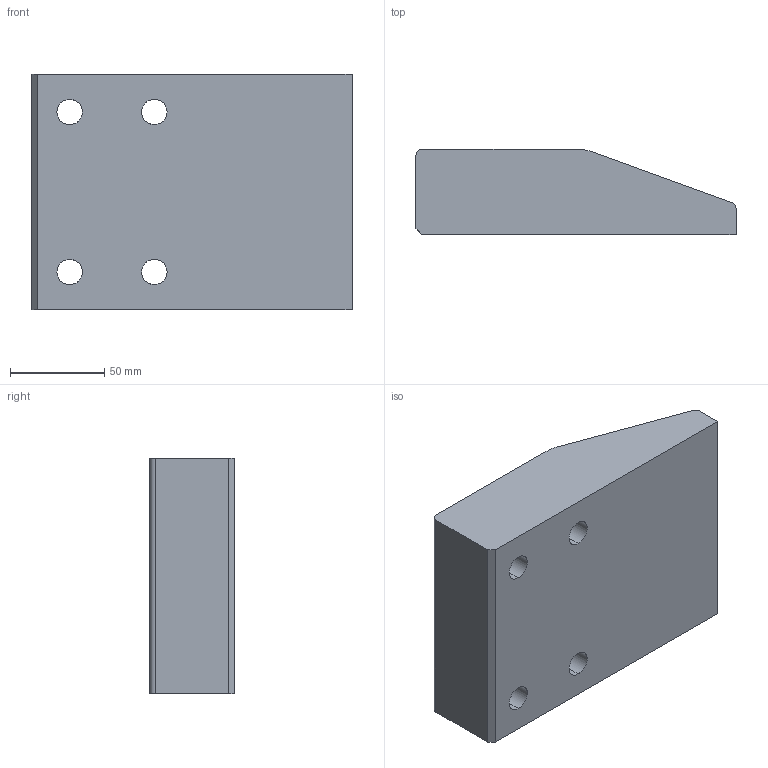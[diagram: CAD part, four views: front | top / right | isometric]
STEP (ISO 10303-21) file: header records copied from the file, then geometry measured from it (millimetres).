
FILE_DESCRIPTION(('CATIA V5 STEP Exchange'),'2;1');
FILE_NAME('C:\Users\Raffaele\Desktop\3D X SITO CF\A935\GSB_OILLESS_G2290112517045\STEP-2.03\A935-12517045.stp','2019-07-12T07:21:15+00:00',('none'),('none'),'CATIA Version 5 Release 20 GA (IN-10)','CATIA V5 STEP AP203','none');
FILE_SCHEMA(('CONFIG_CONTROL_DESIGN'));
Length unit declared in the file: millimetre
Products named in the file (1): A935-12517045
Bounding box: 170 x 45 x 125 mm (x, y, z)
Volume: 762901.6 mm3; surface area: 71884.8 mm2
Topology: 1 solids, 1 shells, 39 faces, 131 edges, 98 vertices
Faces by surface type: cylinder 19, plane 12, torus 8
Entity records: 1691 total; most frequent: CARTESIAN_POINT 493, ORIENTED_EDGE 262, DIRECTION 193, EDGE_CURVE 131, AXIS2_PLACEMENT_3D 118, VERTEX_POINT 98, CIRCLE 78, EDGE_LOOP 51
